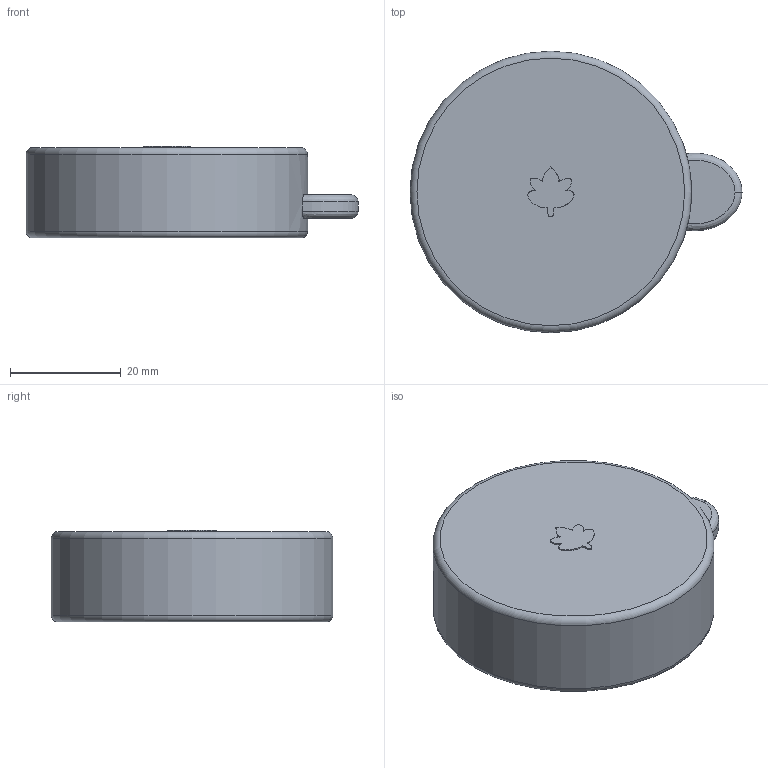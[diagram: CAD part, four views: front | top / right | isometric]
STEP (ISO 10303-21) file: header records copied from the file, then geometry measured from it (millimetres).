
FILE_DESCRIPTION(('Open CASCADE Model'),'2;1');
FILE_NAME('Open CASCADE Shape Model','2026-11-09T11:50:28',('Author'),( 'Open CASCADE'),'Open CASCADE STEP processor 7.8','Open CASCADE 7.8' ,'Unknown');
FILE_SCHEMA(('AUTOMOTIVE_DESIGN { 1 0 10303 214 1 1 1 1 }'));
Length unit declared in the file: millimetre
Products named in the file (1): Open CASCADE STEP translator 7.8 4
Bounding box: 59.9 x 50.8 x 16.55 mm (x, y, z)
Volume: 14479.2 mm3; surface area: 8535.5 mm2
Topology: 1 solids, 1 shells, 32 faces, 77 edges, 50 vertices
Faces by surface type: extrusion 14, plane 7, torus 5, bspline 4, cylinder 2
Full cylindrical faces by diameter (mm): 43.1 x1, 50.8 x1
Entity records: 4055 total; most frequent: CARTESIAN_POINT 2681, DIRECTION 185, ORIENTED_EDGE 154, PCURVE 154, DEFINITIONAL_REPRESENTATION 154, VECTOR 111, B_SPLINE_CURVE_WITH_KNOTS 108, LINE 97
